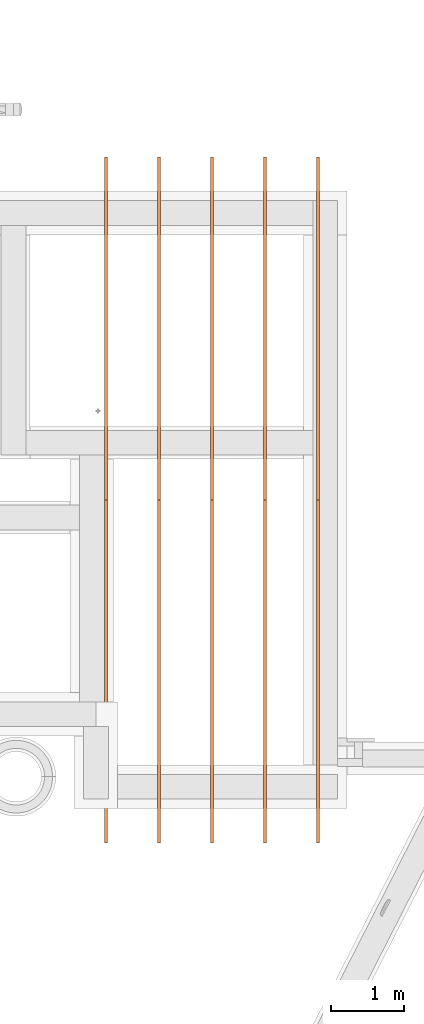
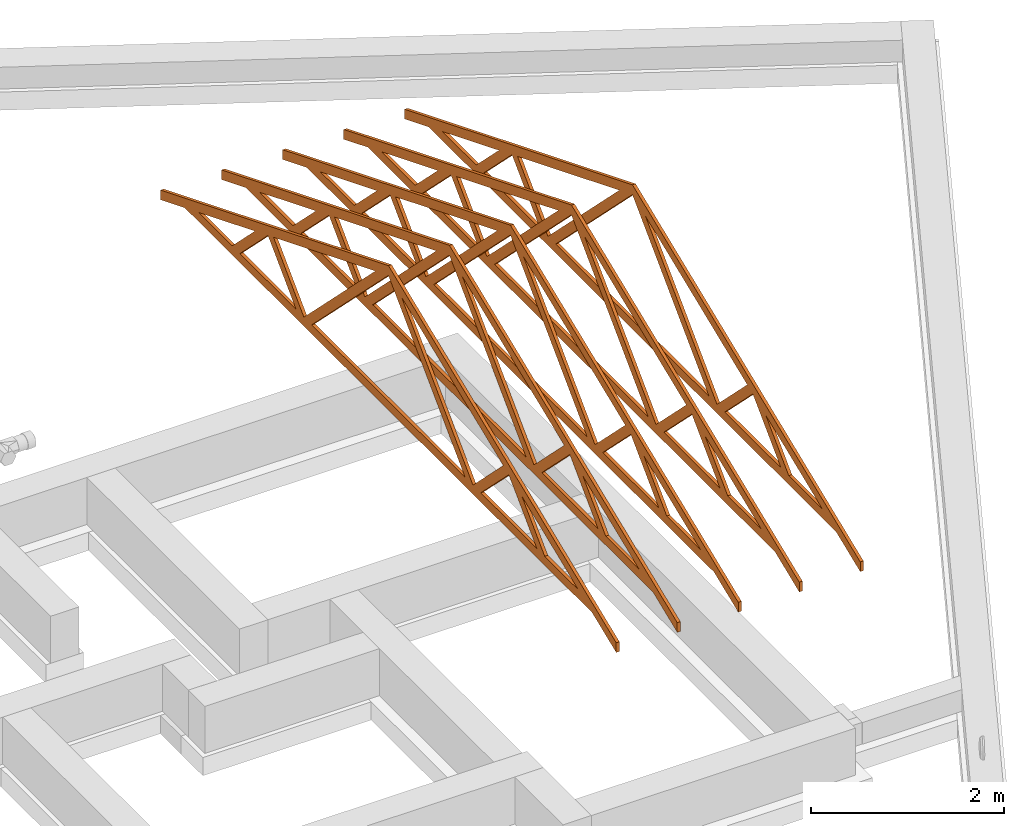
# One storey, part 8 of 8: 5 proxies.
"""IFC2X3 building model written with IfcOpenShell, lengths in millimetres."""

from ifc_helpers import new_model, entity, si_unit, converted_unit, derived_unit, direction, frame, origin, place, context, subcontext, project, spatial, polyline, outline, extrude, source, transform, mapped, material, type_object, type_shapes, element, save


model = new_model("IFC2X3")

# Units and contexts
model_context = context("Model", 3, precision=0.01, world=origin(), true_north=direction((6.12303176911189e-17, 1.0)))
body_context = subcontext(model_context, "Body", "Model", "MODEL_VIEW")
ifc_project = project(units=[si_unit("LENGTHUNIT", "METRE", prefix="MILLI"), si_unit("AREAUNIT", "SQUARE_METRE"), si_unit("VOLUMEUNIT", "CUBIC_METRE"), converted_unit("PLANEANGLEUNIT", "DEGREE", entity("IfcRatioMeasure", 0.0174532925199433), si_unit("PLANEANGLEUNIT", "RADIAN"), dimensions=[0, 0, 0, 0, 0, 0, 0]), si_unit("MASSUNIT", "GRAM", prefix="KILO"), derived_unit("MASSDENSITYUNIT", [(si_unit("MASSUNIT", "GRAM", prefix="KILO"), 1), (si_unit("LENGTHUNIT", "METRE"), -3)]), si_unit("TIMEUNIT", "SECOND"), si_unit("FREQUENCYUNIT", "HERTZ"), si_unit("THERMODYNAMICTEMPERATUREUNIT", "DEGREE_CELSIUS"), derived_unit("THERMALTRANSMITTANCEUNIT", [(si_unit("MASSUNIT", "GRAM", prefix="KILO"), 1), (si_unit("THERMODYNAMICTEMPERATUREUNIT", "KELVIN"), -1), (si_unit("TIMEUNIT", "SECOND"), -3)]), derived_unit("VOLUMETRICFLOWRATEUNIT", [(si_unit("LENGTHUNIT", "METRE"), 3), (si_unit("TIMEUNIT", "SECOND"), -1)]), si_unit("ELECTRICCURRENTUNIT", "AMPERE"), si_unit("ELECTRICVOLTAGEUNIT", "VOLT"), si_unit("POWERUNIT", "WATT"), si_unit("FORCEUNIT", "NEWTON", prefix="KILO"), si_unit("ILLUMINANCEUNIT", "LUX"), si_unit("LUMINOUSFLUXUNIT", "LUMEN"), si_unit("LUMINOUSINTENSITYUNIT", "CANDELA"), derived_unit("USERDEFINED", [(si_unit("MASSUNIT", "GRAM", prefix="KILO"), -1), (si_unit("LENGTHUNIT", "METRE"), -2), (si_unit("TIMEUNIT", "SECOND"), 3), (si_unit("LUMINOUSFLUXUNIT", "LUMEN"), 1)]), derived_unit("LINEARVELOCITYUNIT", [(si_unit("LENGTHUNIT", "METRE"), 1), (si_unit("TIMEUNIT", "SECOND"), -1)]), si_unit("PRESSUREUNIT", "PASCAL"), derived_unit("USERDEFINED", [(si_unit("LENGTHUNIT", "METRE"), -2), (si_unit("MASSUNIT", "GRAM", prefix="KILO"), 1), (si_unit("TIMEUNIT", "SECOND"), -2)])], contexts=[model_context])

# Site, building, storey
site_placement = place(None, origin())
site = spatial("IfcSite", under=ifc_project, at=site_placement, Name="Surface", CompositionType="ELEMENT")
building_placement = place(site_placement, origin())
building = spatial("IfcBuilding", under=site, at=building_placement, CompositionType="ELEMENT")
storey_placement = place(building_placement, frame((0.0, 0.0, -445.0)))
storey = spatial("IfcBuildingStorey", under=building, at=storey_placement, Name="T.O.F", CompositionType="ELEMENT", Elevation=-445.0)

# Proxies
ifc_material = material(Name="TIMBER 3")
building_element_proxy_type = type_object("IfcBuildingElementProxyType", Name="STRUCTURE 3", PredefinedType="NOTDEFINED", material=ifc_material)
shared_shape = source(origin(), body_context, "Body", "SweptSolid", [
    extrude(outline(polyline([(-4220.00220784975, 180.250977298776), (-4722.49705620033, 383.272074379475), (-4722.50220784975, 260.321195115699), (-0.00220784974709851, -1647.69265639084), (4722.50294379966, 260.32327651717), (4722.50294379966, 383.274155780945), (4219.99779215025, 180.250977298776), (-4220.00220784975, 180.250977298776)]), holes=[polyline([(270.513632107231, -1415.44420187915), (1752.20881128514, 66.2509772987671), (2381.15110014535, -562.691311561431), (270.513632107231, -1415.44420187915)]), polyline([(-0.00220784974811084, -1524.7396957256), (-1590.99288087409, 66.2509772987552), (1590.98846517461, 66.2509772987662), (-0.00220784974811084, -1524.7396957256)]), polyline([(-1752.21322698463, 66.2509772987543), (-270.51804780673, -1415.44420187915), (-2381.15551584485, -562.691311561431), (-1752.21322698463, 66.2509772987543)]), polyline([(3239.74771190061, 66.2509772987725), (3937.83789086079, 66.2509772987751), (2766.49410154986, -407.002633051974), (3239.74771190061, 66.2509772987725)]), polyline([(3078.52736579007, 66.250977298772), (2495.97826159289, -516.29812689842), (1913.42915739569, 66.2509772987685), (3078.52736579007, 66.250977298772)]), polyline([(-1913.4335730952, 66.250977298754), (-2495.98267729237, -516.298126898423), (-3078.53178148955, 66.2509772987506), (-1913.4335730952, 66.250977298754)]), polyline([(-3937.84230656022, 66.2509772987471), (-3239.75212760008, 66.2509772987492), (-2766.49851724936, -407.002633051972), (-3937.84230656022, 66.2509772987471)])]), frame((-19.0, 0.00220784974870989, 1093.78156342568), z_axis=(-1.0, 0.0, 0.0), x_axis=(0.0, 1.0, 0.0)), (0.0, 0.0, -1.0), 38.0),
])
type_shapes(building_element_proxy_type, [shared_shape])
for number, where, name in (
    (1, (272.124829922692, 6702.59087597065, 2328.46941387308), "STRUCTURE 3:STRUCTURE 3"),
    (2, (1002.12482992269, 6702.59087597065, 2328.46941387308), "STRUCTURE 3:STRUCTURE 3"),
    (3, (1732.12482992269, 6702.59087597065, 2328.46941387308), "STRUCTURE 3:STRUCTURE 3"),
    (4, (2462.12482992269, 6702.59087597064, 2328.46941387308), "STRUCTURE 3:STRUCTURE 3"),
    (5, (3192.12482992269, 6702.59087597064, 2328.46941387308), "STRUCTURE 3:STRUCTURE 3"),
):
    element("IfcBuildingElementProxy", number, at=place(storey_placement, frame(where)), inside=storey, type_object=building_element_proxy_type, material=ifc_material, Name=name, ObjectType="STRUCTURE 3", context=body_context, shape_type="MappedRepresentation", body=[
        mapped(shared_shape, transform((0.0, 0.0, 0.0), scale=1.0)),
    ])

save(model, "model.ifc")
